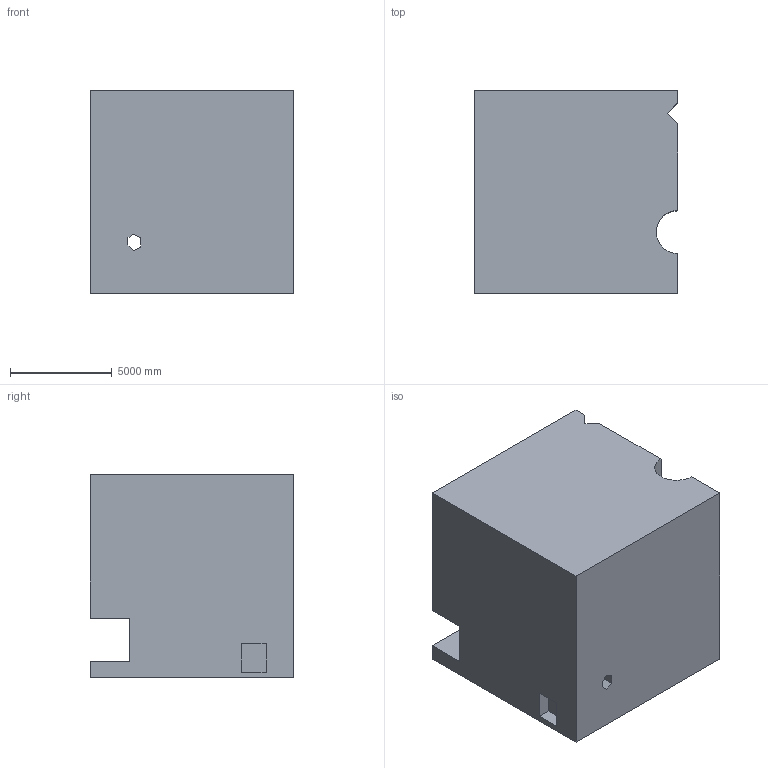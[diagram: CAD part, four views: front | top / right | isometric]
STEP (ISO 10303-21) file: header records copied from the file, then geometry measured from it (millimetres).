
FILE_DESCRIPTION (( 'STEP AP203' ), '1' );
FILE_NAME ('72.STEP', '2022-09-02T15:23:20', ( 'user' ), ( '' ), 'SwSTEP 2.0', 'SolidWorks 2021', '' );
FILE_SCHEMA (( 'CONFIG_CONTROL_DESIGN' ));
Length unit declared in the file: centimetre
Products named in the file (1): 72
Bounding box: 10000 x 10000 x 10000 mm (x, y, z)
Volume: 919490538292.7 mm3; surface area: 712265015.2 mm2
Topology: 1 solids, 1 shells, 45 faces, 118 edges, 78 vertices
Faces by surface type: plane 40, cylinder 5
Entity records: 1447 total; most frequent: CARTESIAN_POINT 242, ORIENTED_EDGE 236, DIRECTION 220, EDGE_CURVE 118, LINE 108, VECTOR 108, VERTEX_POINT 78, AXIS2_PLACEMENT_3D 56
